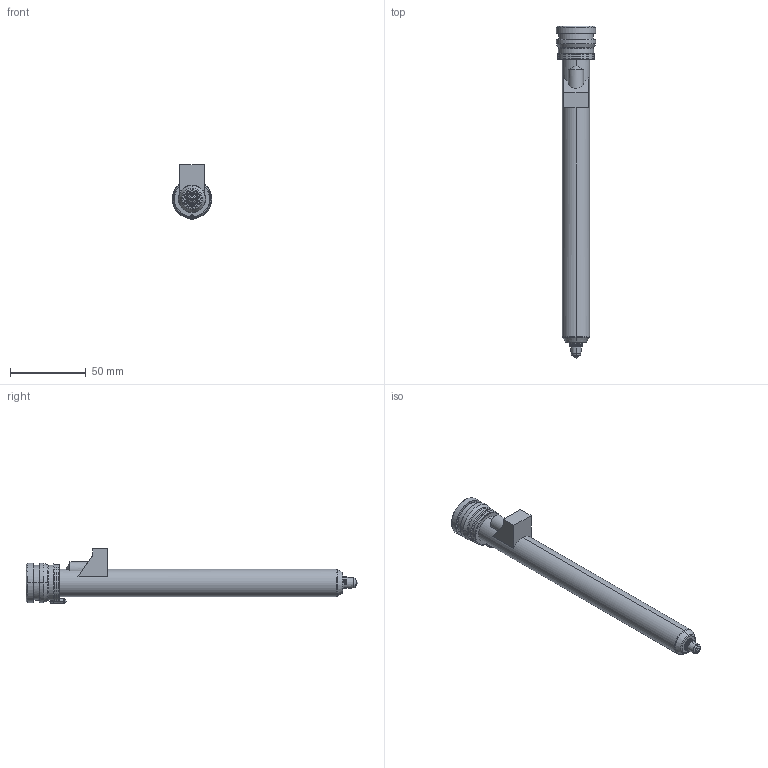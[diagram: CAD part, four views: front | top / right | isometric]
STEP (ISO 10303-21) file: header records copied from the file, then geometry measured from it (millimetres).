
FILE_DESCRIPTION((''),'2;1');
FILE_NAME('TH18201-M-1B50-PK-JG','2023-12-14T',('umhib'),('Thermoplay S.p.A.'),'PRO/ENGINEER BY PARAMETRIC TECHNOLOGY CORPORATION, 2017170','PRO/ENGINEER BY PARAMETRIC TECHNOLOGY CORPORATION, 2017170','');
FILE_SCHEMA(('CONFIG_CONTROL_DESIGN'));
Length unit declared in the file: millimetre
Products named in the file (1): TH18201-M-1B50-PK-JG
Bounding box: 26 x 219 x 36.1 mm (x, y, z)
Volume: 42375.2 mm3; surface area: 31879.6 mm2
Topology: 1 solids, 2 shells, 389 faces, 993 edges, 609 vertices
Faces by surface type: cylinder 149, plane 87, cone 62, torus 56, bspline 22, sphere 11, extrusion 2
Entity records: 16879 total; most frequent: CARTESIAN_POINT 5236, DIRECTION 1992, ORIENTED_EDGE 1960, EDGE_CURVE 982, AXIS2_PLACEMENT_3D 802, VERTEX_POINT 609, CIRCLE 436, EDGE_LOOP 412
